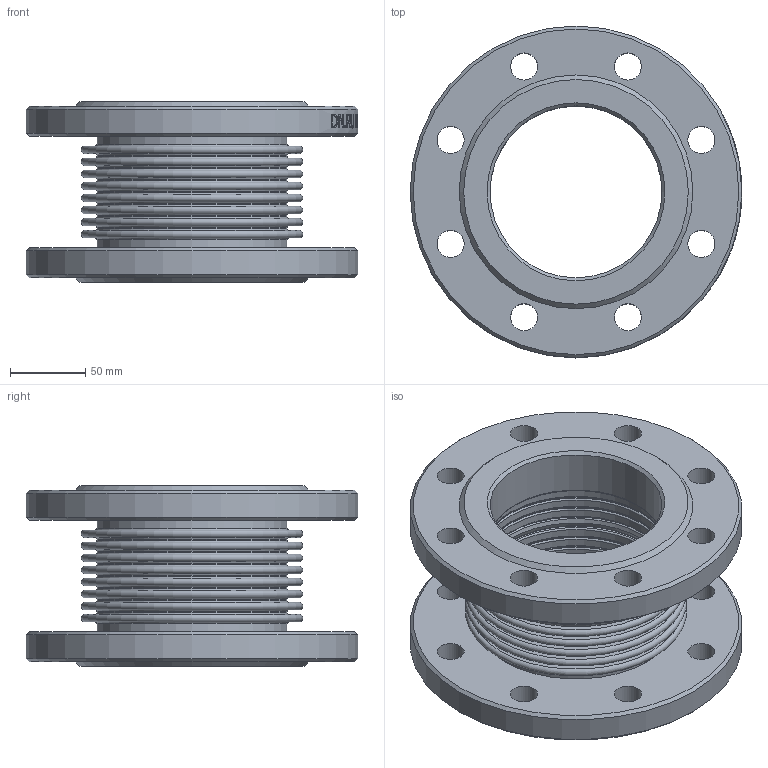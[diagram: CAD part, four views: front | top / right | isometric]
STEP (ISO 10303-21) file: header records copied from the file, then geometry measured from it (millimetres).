
FILE_DESCRIPTION(/* description */ ('D140-02116','CAx-IF Rec.Pracs.---Representation and Presentation of Product Manufacturing Information (PMI)---4.0---2014-10-13'),/* implementation_level */ '2;1');
FILE_NAME(/* name */ '',/* time_stamp */ '2026-04-13T23:42:30+03:00',/* author */ ('DN.RU'),/* organization */ ('DN.RU'),/* preprocessor_version */ 'ST-DEVELOPER v20',/* originating_system */ 'Autodesk Inventor 2025',/* authorisation */ '');
FILE_SCHEMA (('AP242_MANAGED_MODEL_BASED_3D_ENGINEERING_MIM_LF { 1 0 10303 442 1 1 4 }'));
Length unit declared in the file: millimetre
Products named in the file (1): CB-3234-F
Bounding box: 220 x 220 x 120 mm (x, y, z)
Volume: 1264519.5 mm3; surface area: 364165.6 mm2
Topology: 1 solids, 1 shells, 333 faces, 813 edges, 541 vertices
Faces by surface type: plane 133, bspline 84, cylinder 58, torus 48, cone 10
Full cylindrical faces by diameter (mm): 18 x16, 114 x2, 122 x6, 126 x9, 132 x2, 220 x2
Entity records: 13104 total; most frequent: CARTESIAN_POINT 4635, ORIENTED_EDGE 1626, DIRECTION 1570, EDGE_CURVE 813, AXIS2_PLACEMENT_3D 634, VERTEX_POINT 541, STYLED_ITEM 428, EDGE_LOOP 426
